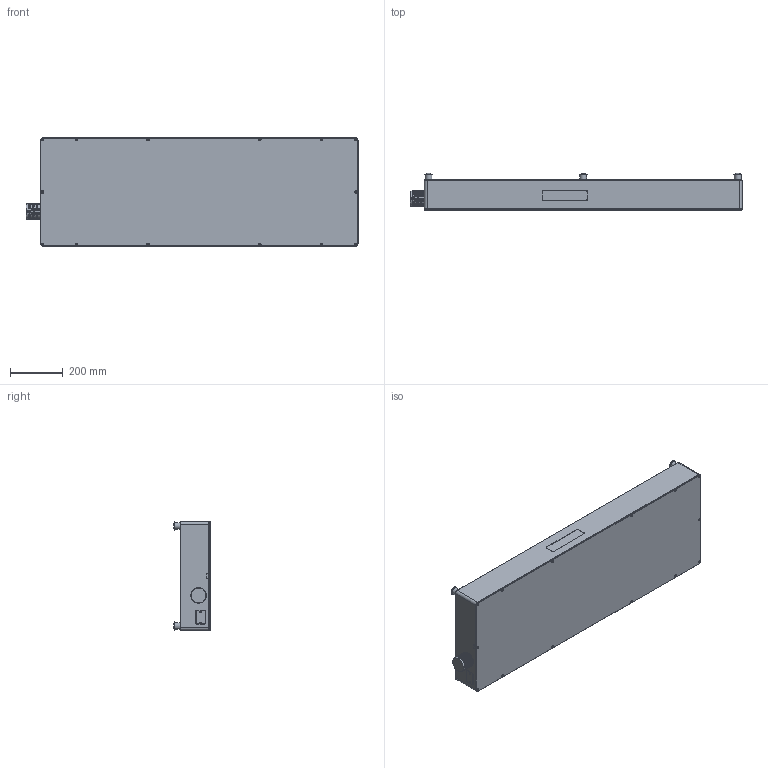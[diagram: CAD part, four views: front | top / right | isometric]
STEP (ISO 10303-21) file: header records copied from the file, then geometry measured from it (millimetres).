
FILE_DESCRIPTION(/* description */ ('Unknown'),/* implementation_level */ '2;1');
FILE_NAME(/* name */ '飞秒激光器外壳(三个支撑脚)',/* time_stamp */ '2018-05-08T09:49:26+08:00',/* author */ ('Unknown'),/* organization */ ('Unknown'),/* preprocessor_version */ 'ST-DEVELOPER v16',/* originating_system */ 'DEX',/* authorisation */ $);
FILE_SCHEMA (('AUTOMOTIVE_DESIGN {1 0 10303 214 3 1 1}'));
Length unit declared in the file: millimetre
Products named in the file (7): ·ÉÃë¼¤¹âÆ÷Íâ¿Ç(å¤–å£³(ä¸‰ä¸ªæ”¯æ’‘è„š); 褲; ´ó‹; id63; Ð¡‹; Ð¡$ç; 輸
Assembly tree (8 placements, depth 2):
  ·ÉÃë¼¤¹âÆ÷Íâ¿Ç(å¤–å£³(ä¸‰ä¸ªæ”¯æ’‘è„š)
    褲
    ´ó‹
    id63  x3
    Ð¡‹
    Ð¡$ç
    輸
Bounding box: 1254.5 x 140 x 410 mm (x, y, z)
Volume: 57683173.1 mm3; surface area: 2388931 mm2
Topology: 8 solids, 8 shells, 314 faces, 716 edges, 464 vertices
Faces by surface type: plane 128, cylinder 109, cone 66, torus 6, sphere 3, bspline 2
Full cylindrical faces by diameter (mm): 2.459 x2, 3.4 x1, 4.8 x14, 4.917 x6, 6 x3, 6.5 x1, 7.188 x1, 11.445 x2, 12 x1, 22.376 x1, 25 x3, 31.8 x3, 35 x1, 38.6 x1, 45 x1, 55 x14, 58 x16
Entity records: 9697 total; most frequent: CARTESIAN_POINT 1607, DIRECTION 1382, ORIENTED_EDGE 1058, AXIS2_PLACEMENT_3D 573, EDGE_CURVE 529, FACE_BOUND 468, EDGE_LOOP 462, VERTEX_POINT 393
